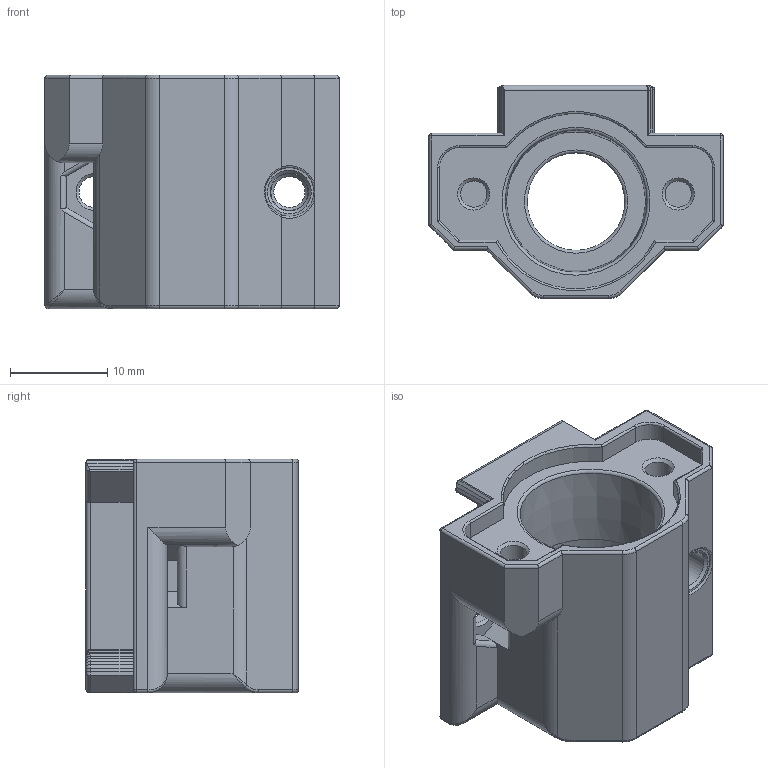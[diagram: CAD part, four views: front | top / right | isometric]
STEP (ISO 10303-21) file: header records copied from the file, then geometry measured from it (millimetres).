
FILE_DESCRIPTION(/* description */ ('FreeCAD Model'),/* implementation_level */ '2;1');
FILE_NAME(/* name */ '\\7800MBZ-PC\Maschinenbau-Projekte\Prusa_Mini_CAD\Linearlager\Linearlager_Sinterbuchsen-8_14_20-Mini-Y-Achse\Export_Step\Caspar_Sinterbuchsen_8x14x20_Mini\PrusaMods_Y-Axis_Bearing_Holder_RJ4JP_+0.30_Loslager_mit_Ausnehmung.stp',/* time_stamp */ '2023-04-10T17:54:26+02:00',/* author */ ('KHG'),/* organization */ (''),/* preprocessor_version */ 'ST-DEVELOPER v18.1',/* originating_system */ 'Autodesk Inventor 2020',/* authorisation */ 'Unknown');
FILE_SCHEMA (('AUTOMOTIVE_DESIGN { 1 0 10303 214 3 1 1 }'));
Length unit declared in the file: millimetre
Products named in the file (1): PrusaMods_Y-Axis_Bearing_Holder_RJ4JP_+0.30_Loslager_mit_Ausnehmung
Bounding box: 30.2 x 21.86 x 24 mm (x, y, z)
Volume: 6351.9 mm3; surface area: 4602 mm2
Topology: 1 solids, 1 shells, 324 faces, 829 edges, 522 vertices
Faces by surface type: plane 156, cylinder 93, bspline 50, torus 12, cone 9, sphere 4
Full cylindrical faces by diameter (mm): 2.7 x2, 3.2 x2, 3.9 x1, 5 x1, 10 x1
Entity records: 10391 total; most frequent: CARTESIAN_POINT 2743, ORIENTED_EDGE 1654, DIRECTION 1441, EDGE_CURVE 827, LINE 539, VECTOR 539, VERTEX_POINT 522, AXIS2_PLACEMENT_3D 451
